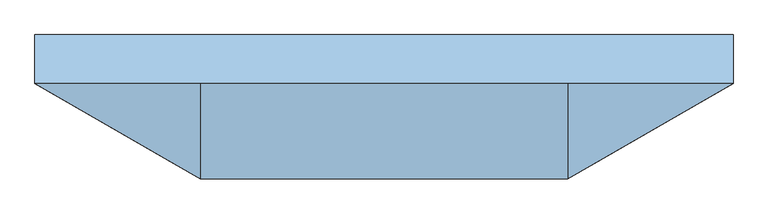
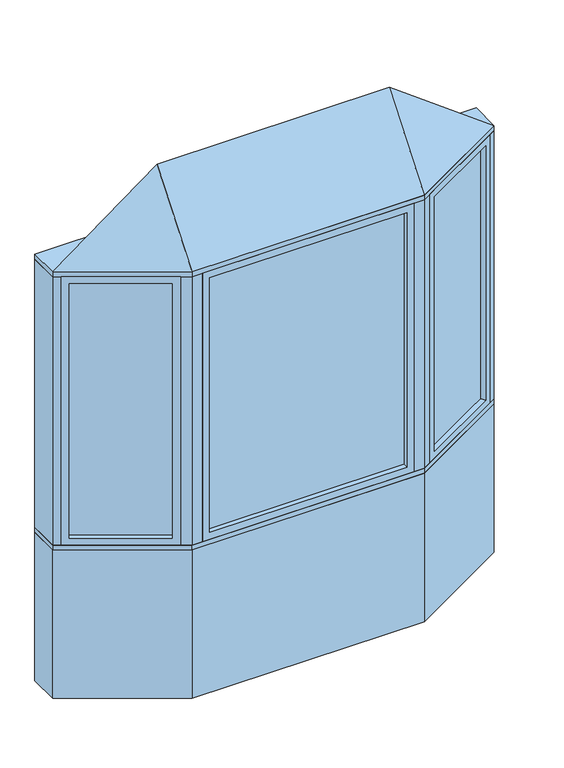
"""IFC4 building model written with IfcOpenShell, lengths in millimetres: window geometry, Pollard_Windows_Tudor Casement Bows and Bays : AML-BAY 30 AFR0514-12-500."""

import ifcopenshell
import ifcopenshell.guid

model = None  # the IFC model being written
_history = None  # IfcOwnerHistory: only IFC2X3 demands one
_inside = {}  # id of a spatial element -> (the spatial element, [elements in it])
_under = {}  # id of a project, library or spatial element -> (it, [spatial elements below it])
_declared = {}  # id of a project -> (the project, [libraries it declares])
_typed = {}  # id of a type object -> (the type object, [elements of that type])
_made_of = {}  # id of a material, layer set ... -> (it, [elements and type objects made of it])


def new_model(schema):
    """Start an empty IFC model of exactly this schema.

    Asked for "IFC4X3", IfcOpenShell would pick the latest addendum, in which some entities
    have other attributes; the version numbers below select the first issue.
    IFC2X3 requires an IfcOwnerHistory on every rooted entity: one is made here for all.
    """
    global model, _history
    if schema == "IFC4X3":
        model = ifcopenshell.file(schema_version=(4, 3, 0, 0))
    else:
        model = ifcopenshell.file(schema=schema)
    _inside.clear()
    _under.clear()
    _declared.clear()
    _typed.clear()
    _made_of.clear()
    _history = None
    if model.schema == "IFC2X3":
        org = make("IfcOrganization", Name="unknown")
        user = make(
            "IfcPersonAndOrganization",
            ThePerson=make("IfcPerson", FamilyName="unknown"),
            TheOrganization=org,
        )
        app = make(
            "IfcApplication",
            ApplicationDeveloper=org,
            Version="unknown",
            ApplicationFullName="unknown",
            ApplicationIdentifier="unknown",
        )
        _history = make(
            "IfcOwnerHistory",
            OwningUser=user,
            OwningApplication=app,
            ChangeAction="ADDED",
            CreationDate=0,
        )
    return model


def make(cls, **values):
    """One entity of the class cls with the attributes given. An attribute that is None is left unset."""
    return model.create_entity(
        cls, **{name: value for name, value in values.items() if value is not None}
    )


def rooted(cls, **values):
    """An entity with a GlobalId (a new one), such as an element, a storey or a relation."""
    return make(cls, GlobalId=ifcopenshell.guid.new(), OwnerHistory=_history, **values)


def si_unit(unit_type, name, prefix=None):
    """IfcSIUnit, for example si_unit("LENGTHUNIT", "METRE", prefix="MILLI")."""
    return make("IfcSIUnit", UnitType=unit_type, Prefix=prefix, Name=name)


def assignment(units):
    """IfcUnitAssignment: the units of a project."""
    return None if units is None else make("IfcUnitAssignment", Units=units)


def point(xyz):
    """IfcCartesianPoint."""
    return None if xyz is None else make("IfcCartesianPoint", Coordinates=xyz)


def direction(xyz):
    """IfcDirection."""
    return None if xyz is None else make("IfcDirection", DirectionRatios=xyz)


def frame(location, z_axis=None, x_axis=None):
    """IfcAxis2Placement3D, a coordinate frame: its origin and axes. An axis left out is left unset."""
    return make(
        "IfcAxis2Placement3D",
        Location=point(location),
        Axis=direction(z_axis),
        RefDirection=direction(x_axis),
    )


def origin():
    """The frame at (0, 0, 0) with its axes left unset."""
    return frame((0.0, 0.0, 0.0))


def origin_with_axes():
    """The frame at (0, 0, 0) with the z axis (0, 0, 1) and the x axis (1, 0, 0) written out."""
    return frame((0.0, 0.0, 0.0), z_axis=(0.0, 0.0, 1.0), x_axis=(1.0, 0.0, 0.0))


def place(relative_to, where):
    """IfcLocalPlacement: puts the frame where relative to a parent placement (None: the world)."""
    return make(
        "IfcLocalPlacement", PlacementRelTo=relative_to, RelativePlacement=where
    )


def context(
    kind, dimensions, precision=None, world=None, true_north=None, identifier=None
):
    """IfcGeometricRepresentationContext, for example the 3D "Model" context."""
    return make(
        "IfcGeometricRepresentationContext",
        ContextIdentifier=identifier,
        ContextType=kind,
        CoordinateSpaceDimension=dimensions,
        Precision=precision,
        WorldCoordinateSystem=world,
        TrueNorth=true_north,
    )


def project(units=None, contexts=None):
    """IfcProject with its units and contexts."""
    return rooted(
        "IfcProject",
        Name="project",
        RepresentationContexts=contexts,
        UnitsInContext=assignment(units),
    )


def spatial(cls, under=None, at=None, **own):
    """A site, building, storey or space (cls), placed at a placement, below another one or the project."""
    s = rooted(cls, ObjectPlacement=at, **own)
    if under is not None:
        _under.setdefault(under.id(), (under, []))[1].append(s)
    return s


def polyline(points):
    """IfcPolyline through the points."""
    return make("IfcPolyline", Points=[point(p) for p in points])


def outline(outer, holes=None, kind="AREA"):
    """IfcArbitraryClosedProfileDef: a profile drawn as a closed curve; with holes, ...WithVoids."""
    if holes is None:
        return make("IfcArbitraryClosedProfileDef", ProfileType=kind, OuterCurve=outer)
    return make(
        "IfcArbitraryProfileDefWithVoids",
        ProfileType=kind,
        OuterCurve=outer,
        InnerCurves=holes,
    )


def extrude(swept, where, along, depth):
    """IfcExtrudedAreaSolid: the profile swept, set in the frame where, extruded along a direction by depth."""
    return make(
        "IfcExtrudedAreaSolid",
        SweptArea=swept,
        Position=where,
        ExtrudedDirection=direction(along),
        Depth=depth,
    )


def faces_of(points, faces, orient=None, outer=None):
    """IfcFace entities. A face is a list of loops; a loop is a list of indices into points, from 0.

    orient and outer hold one flag for each loop. By default every Orientation is true, the
    first loop of a face is its IfcFaceOuterBound and the others are IfcFaceBound.
    """
    made = []
    for i, loops in enumerate(faces):
        bounds = []
        for j, loop in enumerate(loops):
            is_outer = j == 0 if outer is None else outer[i][j]
            bounds.append(
                make(
                    "IfcFaceOuterBound" if is_outer else "IfcFaceBound",
                    Bound=make("IfcPolyLoop", Polygon=[points[k] for k in loop]),
                    Orientation=True if orient is None else orient[i][j],
                )
            )
        made.append(make("IfcFace", Bounds=bounds))
    return made


def faceted_brep(points, faces, orient=None, outer=None, voids=None):
    """IfcFacetedBrep: a solid bounded by flat faces; with voids (closed shells), ...WithVoids."""
    shared = [point(p) for p in points]
    hull = make("IfcClosedShell", CfsFaces=faces_of(shared, faces, orient, outer))
    if voids is None:
        return make("IfcFacetedBrep", Outer=hull)
    return make(
        "IfcFacetedBrepWithVoids",
        Outer=hull,
        Voids=[
            make(cls, CfsFaces=faces_of(shared, fs, o, b)) for cls, fs, o, b in voids
        ],
    )


def shape(context_of_items, identifier, shape_type, items):
    """IfcShapeRepresentation: the items that make up one representation, for example the "Body"."""
    return make(
        "IfcShapeRepresentation",
        ContextOfItems=context_of_items,
        RepresentationIdentifier=identifier,
        RepresentationType=shape_type,
        Items=items,
    )


def source(mapping_origin, context_of_items, identifier, shape_type, items):
    """IfcRepresentationMap: a shape defined once, which mapped items show again and again."""
    return make(
        "IfcRepresentationMap",
        MappingOrigin=mapping_origin,
        MappedRepresentation=shape(context_of_items, identifier, shape_type, items),
    )


def transform(
    local_origin,
    x_axis=None,
    y_axis=None,
    z_axis=None,
    scale=None,
    scale2=None,
    scale3=None,
    uniform=True,
):
    """IfcCartesianTransformationOperator3D, or its non-uniform kind. x_axis, y_axis, z_axis: its Axis1, 2, 3."""
    if uniform:
        return make(
            "IfcCartesianTransformationOperator3D",
            Axis1=direction(x_axis),
            Axis2=direction(y_axis),
            LocalOrigin=point(local_origin),
            Scale=scale,
            Axis3=direction(z_axis),
        )
    return make(
        "IfcCartesianTransformationOperator3DnonUniform",
        Axis1=direction(x_axis),
        Axis2=direction(y_axis),
        LocalOrigin=point(local_origin),
        Scale=scale,
        Axis3=direction(z_axis),
        Scale2=scale2,
        Scale3=scale3,
    )


def mapped(mapping_source, mapping_target):
    """IfcMappedItem: shows the shape of a source again, moved by a transform."""
    return make(
        "IfcMappedItem", MappingSource=mapping_source, MappingTarget=mapping_target
    )


def made_of(thing, what):
    """Note that an element or type object is made of a material, layer set ...; save() writes the relation."""
    if what is not None:
        _made_of.setdefault(what.id(), (what, []))[1].append(thing)
    return thing


def element(
    cls,
    number,
    at=None,
    inside=None,
    cuts=None,
    type_object=None,
    material=None,
    context=None,
    identifier="Body",
    shape_type=None,
    held_by="IfcProductDefinitionShape",
    body=None,
    shapes=None,
    **own,
):
    """One element of the class cls, such as IfcWall. Its Tag is "e" and its number.

    at: its placement. inside: the storey or other place that contains it. cuts: it is an
    opening in that element (IfcRelVoidsElement). A single representation is given by context,
    identifier, shape_type and body (its items); several are given by shapes. held_by: the class
    of the entity that holds the representations. save() writes the other relations.
    """
    e = rooted(cls, Tag="e%d" % number, ObjectPlacement=at, **own)
    if body is not None:
        shapes = [shape(context, identifier, shape_type, body)]
    if shapes is not None:
        e.Representation = make(held_by, Representations=shapes)
    if inside is not None:
        _inside.setdefault(inside.id(), (inside, []))[1].append(e)
    if cuts is not None:
        rooted(
            "IfcRelVoidsElement", RelatingBuildingElement=cuts, RelatedOpeningElement=e
        )
    if type_object is not None:
        _typed.setdefault(type_object.id(), (type_object, []))[1].append(e)
    return made_of(e, material)


def aggregate(whole, parts):
    """IfcRelAggregates: a whole, such as a stair, and the parts it consists of."""
    return rooted("IfcRelAggregates", RelatingObject=whole, RelatedObjects=parts)


def save(model, path):
    """Write the relations noted so far, then the file.

    IfcRelAggregates (storeys below a building ...), IfcRelContainedInSpatialStructure (elements
    in a storey), IfcRelDefinesByType, IfcRelAssociatesMaterial and IfcRelDeclares: one each for
    every whole, place, type object, material and project.
    """
    for whole, parts in _under.values():
        aggregate(whole, parts)
    for where, things in _inside.values():
        rooted(
            "IfcRelContainedInSpatialStructure",
            RelatedElements=things,
            RelatingStructure=where,
        )
    for kind, things in _typed.values():
        rooted("IfcRelDefinesByType", RelatedObjects=things, RelatingType=kind)
    for what, things in _made_of.values():
        rooted("IfcRelAssociatesMaterial", RelatedObjects=things, RelatingMaterial=what)
    for by, libraries in _declared.values():
        rooted("IfcRelDeclares", RelatingContext=by, RelatedDefinitions=libraries)
    model.write(path)


def window_03d0ee73(model_context):
    return source(origin(), model_context, "Body", "SolidModel", [
        extrude(outline(polyline([(1026.612102, -82.0482469), (623.7320119, -314.6511754), (621.1920119, -310.2517664), (1024.072102, -77.6488379), (1026.612102, -82.0482469)])), frame((0.0, 0.0, 823.1628), z_axis=(0.0, 0.0, 1.0), x_axis=(1.0, 0.0, 0.0)), (0.0, 0.0, 1.0), 1353.6704),
        faceted_brep([(1015.6135794, -88.3982469, 835.8628), (1028.3135794, -110.3952922, 835.8628), (1028.3135794, -110.3952922, 2164.1332), (1015.6135794, -88.3982469, 2164.1332), (1024.072102, -77.6488379, 823.1628), (1026.612102, -82.0482469, 823.1628), (1026.612102, -82.0482469, 2176.8332), (1024.072102, -77.6488379, 2176.8332), (1000.3735794, -62.0017926, 835.8628), (1013.0735794, -83.9988379, 835.8628), (1013.0735794, -83.9988379, 2164.1332), (1000.3735794, -62.0017926, 2164.1332), (1059.3734073, -92.4628922, 799.998), (1031.4334073, -44.0693926, 799.998), (1031.4334073, -44.0693926, 2199.998), (1059.3734073, -92.4628922, 2199.998), (647.4305346, -330.2982207, 2164.1332), (634.7305346, -308.3011754, 2164.1332), (623.7320119, -314.6511754, 2176.8332), (621.1920119, -310.2517664, 2176.8332), (632.1905346, -303.9017664, 2164.1332), (619.4905346, -281.9047211, 2164.1332), (588.4307067, -299.8371211, 2199.998), (616.3707067, -348.2306207, 2199.998), (647.4305346, -330.2982207, 835.8628), (634.7305346, -308.3011754, 835.8628), (623.7320119, -314.6511754, 823.1628), (621.1920119, -310.2517664, 823.1628), (632.1905346, -303.9017664, 835.8628), (619.4905346, -281.9047211, 835.8628), (588.4307067, -299.8371211, 799.998), (616.3707067, -348.2306207, 799.998)], [[[0, 1, 2, 3]], [[4, 5, 6, 7]], [[8, 9, 10, 11]], [[12, 13, 14, 15]], [[3, 2, 16, 17]], [[7, 6, 18, 19]], [[11, 10, 20, 21]], [[15, 14, 22, 23]], [[17, 16, 24, 25]], [[19, 18, 26, 27]], [[21, 20, 28, 29]], [[23, 22, 30, 31]], [[25, 24, 1, 0]], [[5, 26, 18, 6], [3, 17, 25, 0]], [[27, 26, 5, 4]], [[7, 19, 27, 4], [9, 28, 20, 10]], [[29, 28, 9, 8]], [[13, 30, 22, 14], [11, 21, 29, 8]], [[31, 30, 13, 12]], [[15, 23, 31, 12], [1, 24, 16, 2]]]),
        extrude(outline(polyline([(-623.7320119, -314.6511754), (-1026.612102, -82.0482469), (-1024.072102, -77.6488379), (-621.1920119, -310.2517664), (-623.7320119, -314.6511754)])), frame((0.0, 0.0, 823.1628), z_axis=(0.0, 0.0, 1.0), x_axis=(1.0, 0.0, 0.0)), (0.0, 0.0, 1.0), 1353.6704),
        faceted_brep([(-632.1905346, -303.9017664, 2164.1332), (-619.4905346, -281.9047211, 2164.1332), (-619.4905346, -281.9047211, 835.8628), (-632.1905346, -303.9017664, 835.8628), (-623.7320119, -314.6511754, 2176.8332), (-621.1920119, -310.2517664, 2176.8332), (-621.1920119, -310.2517664, 823.1628), (-623.7320119, -314.6511754, 823.1628), (-647.4305346, -330.2982207, 2164.1332), (-634.7305346, -308.3011754, 2164.1332), (-634.7305346, -308.3011754, 835.8628), (-647.4305346, -330.2982207, 835.8628), (-588.4307067, -299.8371211, 2199.998), (-616.3707067, -348.2306207, 2199.998), (-616.3707067, -348.2306207, 799.998), (-588.4307067, -299.8371211, 799.998), (-1000.3735794, -62.0017926, 835.8628), (-1013.0735794, -83.9988379, 835.8628), (-1024.072102, -77.6488379, 823.1628), (-1026.612102, -82.0482469, 823.1628), (-1015.6135794, -88.3982469, 835.8628), (-1028.3135794, -110.3952922, 835.8628), (-1059.3734073, -92.4628922, 799.998), (-1031.4334073, -44.0693926, 799.998), (-1000.3735794, -62.0017926, 2164.1332), (-1013.0735794, -83.9988379, 2164.1332), (-1024.072102, -77.6488379, 2176.8332), (-1026.612102, -82.0482469, 2176.8332), (-1015.6135794, -88.3982469, 2164.1332), (-1028.3135794, -110.3952922, 2164.1332), (-1059.3734073, -92.4628922, 2199.998), (-1031.4334073, -44.0693926, 2199.998)], [[[0, 1, 2, 3]], [[4, 5, 6, 7]], [[8, 9, 10, 11]], [[12, 13, 14, 15]], [[3, 2, 16, 17]], [[7, 6, 18, 19]], [[11, 10, 20, 21]], [[15, 14, 22, 23]], [[17, 16, 24, 25]], [[19, 18, 26, 27]], [[21, 20, 28, 29]], [[23, 22, 30, 31]], [[15, 23, 31, 12], [1, 24, 16, 2]], [[25, 24, 1, 0]], [[5, 26, 18, 6], [3, 17, 25, 0]], [[27, 26, 5, 4]], [[7, 19, 27, 4], [9, 28, 20, 10]], [[29, 28, 9, 8]], [[13, 30, 22, 14], [11, 21, 29, 8]], [[31, 30, 13, 12]]]),
        extrude(outline(polyline([(499.9046365, -347.8306207), (-499.9046365, -347.8306207), (-499.9046365, -342.7506207), (499.9046365, -342.7506207), (499.9046365, -347.8306207)])), frame((0.0, 0.0, 823.1628), z_axis=(0.0, 0.0, 1.0), x_axis=(1.0, 0.0, 0.0)), (0.0, 0.0, 1.0), 1353.6704),
        faceted_brep([(487.2046365, -347.8306207, 835.8628), (487.2046365, -373.2306207, 835.8628), (487.2046365, -373.2306207, 2164.1332), (487.2046365, -347.8306207, 2164.1332), (499.9046365, -342.7506207, 823.1628), (499.9046365, -347.8306207, 823.1628), (499.9046365, -347.8306207, 2176.8332), (499.9046365, -342.7506207, 2176.8332), (487.2046365, -317.3506207, 835.8628), (487.2046365, -342.7506207, 835.8628), (487.2046365, -342.7506207, 2164.1332), (487.2046365, -317.3506207, 2164.1332), (523.0694365, -373.2306207, 799.998), (523.0694365, -317.3506207, 799.998), (523.0694365, -317.3506207, 2199.998), (523.0694365, -373.2306207, 2199.998), (-487.2046365, -373.2306207, 2164.1332), (-487.2046365, -347.8306207, 2164.1332), (-499.9046365, -347.8306207, 2176.8332), (-499.9046365, -342.7506207, 2176.8332), (-487.2046365, -342.7506207, 2164.1332), (-487.2046365, -317.3506207, 2164.1332), (-523.0694365, -317.3506207, 2199.998), (-523.0694365, -373.2306207, 2199.998), (-487.2046365, -373.2306207, 835.8628), (-487.2046365, -347.8306207, 835.8628), (-499.9046365, -347.8306207, 823.1628), (-499.9046365, -342.7506207, 823.1628), (-487.2046365, -342.7506207, 835.8628), (-487.2046365, -317.3506207, 835.8628), (-523.0694365, -317.3506207, 799.998), (-523.0694365, -373.2306207, 799.998)], [[[0, 1, 2, 3]], [[4, 5, 6, 7]], [[8, 9, 10, 11]], [[12, 13, 14, 15]], [[3, 2, 16, 17]], [[7, 6, 18, 19]], [[11, 10, 20, 21]], [[15, 14, 22, 23]], [[17, 16, 24, 25]], [[19, 18, 26, 27]], [[21, 20, 28, 29]], [[23, 22, 30, 31]], [[15, 23, 31, 12], [1, 24, 16, 2]], [[25, 24, 1, 0]], [[5, 26, 18, 6], [3, 17, 25, 0]], [[27, 26, 5, 4]], [[7, 19, 27, 4], [9, 28, 20, 10]], [[29, 28, 9, 8]], [[13, 30, 22, 14], [11, 21, 29, 8]], [[31, 30, 13, 12]]]),
        faceted_brep([(1090.0, -74.7806207, 2225.398), (573.0694365, -373.2306207, 2225.398), (-573.0694365, -373.2306207, 2225.398), (-1090.0, -74.7806207, 2225.398), (-573.0694365, -74.7806207, 2606.398), (573.0694365, -74.7806207, 2606.398)], [[[0, 1, 2, 3]], [[3, 2, 4]], [[2, 1, 5, 4]], [[1, 0, 5]], [[0, 3, 4, 5]]]),
        extrude(outline(polyline([(-1090.0, 77.6193793), (1090.0, 77.6193793), (1090.0, -74.7806207), (573.0694365, -373.2306207), (-573.0694365, -373.2306207), (-1090.0, -74.7806207), (-1090.0, 77.6193793)])), frame((0.0, 0.0, 2199.998), z_axis=(0.0, 0.0, 1.0), x_axis=(1.0, 0.0, 0.0)), (0.0, 0.0, 1.0), 25.4),
        extrude(outline(polyline([(-1090.0, -74.7806207), (-1090.0, 77.6193793), (-1049.1645431, 77.6193793), (-1049.1645431, -74.7806207), (-1059.3734073, -92.4628922), (-1090.0, -74.7806207)])), frame((0.0, 0.0, 799.998), z_axis=(0.0, 0.0, 1.0), x_axis=(1.0, 0.0, 0.0)), (0.0, 0.0, 1.0), 1400.0),
        extrude(outline(polyline([(1090.0, 77.6193793), (1090.0, -74.7806207), (1059.3734073, -92.4628922), (1049.1645431, -74.7806207), (1049.1645431, 77.6193793), (1090.0, 77.6193793)])), frame((0.0, 0.0, 799.998), z_axis=(0.0, 0.0, 1.0), x_axis=(1.0, 0.0, 0.0)), (0.0, 0.0, 1.0), 1400.0),
        extrude(outline(polyline([(573.0694365, -373.2306207), (523.0694365, -373.2306207), (523.0694365, -323.2306207), (559.6719769, -323.2306207), (591.3707067, -304.9293505), (616.3707067, -348.2306207), (573.0694365, -373.2306207)])), frame((0.0, 0.0, 799.998), z_axis=(0.0, 0.0, 1.0), x_axis=(1.0, 0.0, 0.0)), (0.0, 0.0, 1.0), 1400.0),
        extrude(outline(polyline([(-573.0694365, -373.2306207), (-616.3707067, -348.2306207), (-591.3707067, -304.9293505), (-559.6719769, -323.2306207), (-523.0694365, -323.2306207), (-523.0694365, -373.2306207), (-573.0694365, -373.2306207)])), frame((0.0, 0.0, 799.998), z_axis=(0.0, 0.0, 1.0), x_axis=(1.0, 0.0, 0.0)), (0.0, 0.0, 1.0), 1400.0),
        extrude(outline(polyline([(-573.0694365, -373.2306207), (-1090.0, -74.7806207), (-1090.0, 77.6193793), (-1049.1645431, 77.6193793), (-532.2339796, -220.8306207), (532.2339796, -220.8306207), (1049.1645431, 77.6193793), (1090.0, 77.6193793), (1090.0, -74.7806207), (573.0694365, -373.2306207), (-573.0694365, -373.2306207)])), frame((0.0, 0.0, 774.598), z_axis=(0.0, 0.0, 1.0), x_axis=(1.0, 0.0, 0.0)), (0.0, 0.0, 1.0), 25.4),
        extrude(outline(polyline([(-1090.0, -74.7806207), (-1090.0, 77.6193793), (-1049.1645431, 77.6193793), (-532.2339796, -220.8306207), (532.2339796, -220.8306207), (1049.1645431, 77.6193793), (1090.0, 77.6193793), (1090.0, -74.7806207), (573.0694365, -373.2306207), (-573.0694365, -373.2306207), (-1090.0, -74.7806207)])), origin_with_axes(), (0.0, 0.0, 1.0), 774.598),
    ])


if __name__ == "__main__":
    model = new_model("IFC4")
    model_context = context("Model", 3, world=origin())
    ifc_project = project(units=[si_unit("LENGTHUNIT", "METRE", prefix="MILLI")], contexts=[model_context])
    site = spatial("IfcSite", under=ifc_project)
    building = spatial("IfcBuilding", under=site)
    placement = place(None, origin())
    window_shape = window_03d0ee73(model_context)
    element("IfcWindow", 1, ObjectType="Pollard_Windows_Tudor Casement Bows and Bays : AML-BAY 30 AFR0514-12-500", at=placement, inside=building, context=model_context, shape_type="MappedRepresentation", body=[
        mapped(window_shape, transform((0.0, 0.0, 0.0), x_axis=(1.0, 0.0, 0.0), y_axis=(0.0, 1.0, 0.0), z_axis=(0.0, 0.0, 1.0))),
    ])
    save(model, "model.ifc")
